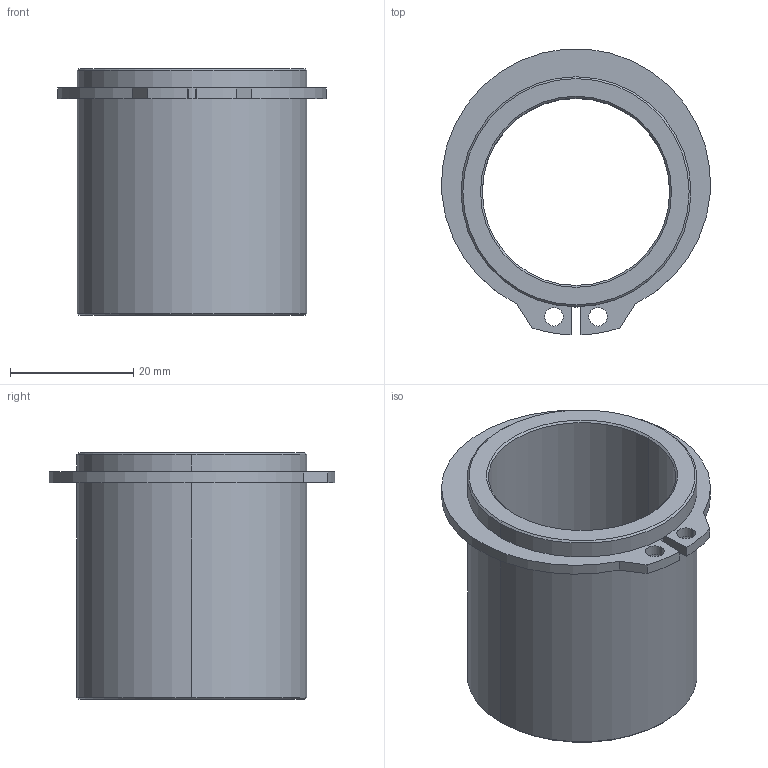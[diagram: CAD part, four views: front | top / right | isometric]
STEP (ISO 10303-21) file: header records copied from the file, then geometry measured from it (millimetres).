
FILE_DESCRIPTION((''),'2;1');
FILE_NAME('C13_030_040.stp','2008-12-17T15:06:18',(''),(''),'Mechanical Desktop 2009','Mechanical Desktop 2009',', , ');
FILE_SCHEMA(('CONFIG_CONTROL_DESIGN'));
Length unit declared in the file: millimetre
Products named in the file (2): Product; blmdl1
Assembly tree (1 placements, depth 2):
  Product
    blmdl1
Bounding box: 43.48 x 46.28 x 40 mm (x, y, z)
Volume: 15376.3 mm3; surface area: 10807.8 mm2
Topology: 2 solids, 2 shells, 34 faces, 76 edges, 48 vertices
Faces by surface type: cylinder 16, plane 10, cone 8
Entity records: 1075 total; most frequent: DIRECTION 188, CARTESIAN_POINT 160, ORIENTED_EDGE 152, AXIS2_PLACEMENT_3D 76, EDGE_CURVE 76, VERTEX_POINT 48, EDGE_LOOP 42, CIRCLE 40
